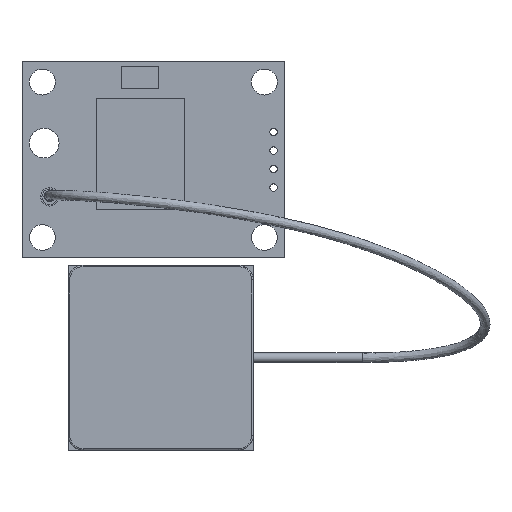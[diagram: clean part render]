
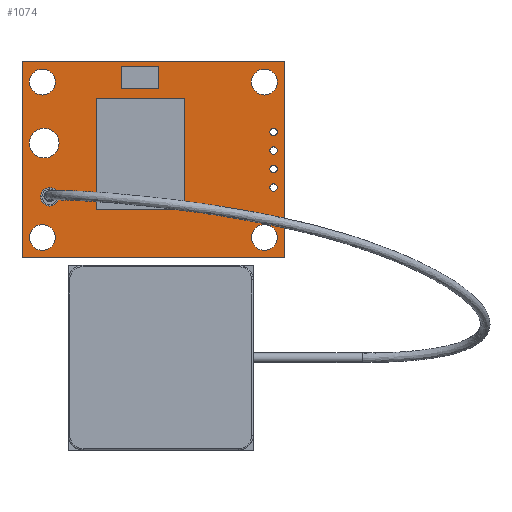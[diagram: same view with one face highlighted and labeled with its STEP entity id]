
A CAD part, top view. The second image highlights one B-rep face of the part: STEP entity #1074.
In plain terms, the highlighted planar face has unit normal (0, 0, 1).
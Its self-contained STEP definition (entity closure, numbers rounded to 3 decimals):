
#1 = CARTESIAN_POINT ( 'NONE',  ( -15., 10.5, 1.4 ) ) ;
#3 = CARTESIAN_POINT ( 'NONE',  ( -12.75, 2.25, 1.4 ) ) ;
#23 = ORIENTED_EDGE ( 'NONE', *, *, #292, .F. ) ;
#35 = EDGE_CURVE ( 'NONE', #467, #467, #2848, .T. ) ;
#39 = CARTESIAN_POINT ( 'NONE',  ( 15., -10.5, 1.4 ) ) ;
#79 = EDGE_CURVE ( 'NONE', #3327, #2706, #755, .T. ) ;
#109 = ORIENTED_EDGE ( 'NONE', *, *, #2989, .F. ) ;
#113 = CARTESIAN_POINT ( 'NONE',  ( 16.25, 1.25, 1.4 ) ) ;
#114 = CARTESIAN_POINT ( 'NONE',  ( -15., -10.5, 1.4 ) ) ;
#169 = LINE ( 'NONE', #2874, #313 ) ;
#178 = CIRCLE ( 'NONE', #2395, 2. ) ;
#217 = CARTESIAN_POINT ( 'NONE',  ( 16.25, -3.75, 1.4 ) ) ;
#220 = DIRECTION ( 'NONE',  ( -1., 0., 0. ) ) ;
#231 = CARTESIAN_POINT ( 'NONE',  ( 17.75, -13.25, 1.4 ) ) ;
#285 = CIRCLE ( 'NONE', #1275, 0.5 ) ;
#292 = EDGE_CURVE ( 'NONE', #712, #712, #933, .T. ) ;
#304 = ORIENTED_EDGE ( 'NONE', *, *, #3050, .F. ) ;
#308 = VERTEX_POINT ( 'NONE', #2447 ) ;
#313 = VECTOR ( 'NONE', #3100, 1000. ) ;
#379 = DIRECTION ( 'NONE',  ( 1., 0., 0. ) ) ;
#385 = ORIENTED_EDGE ( 'NONE', *, *, #79, .T. ) ;
#431 = FACE_BOUND ( 'NONE', #3407, .T. ) ;
#438 = EDGE_LOOP ( 'NONE', ( #3412 ) ) ;
#448 = VERTEX_POINT ( 'NONE', #1497 ) ;
#458 = AXIS2_PLACEMENT_3D ( 'NONE', #2933, #1610, #1005 ) ;
#468 = VECTOR ( 'NONE', #2723, 1000. ) ;
#467 = VERTEX_POINT ( 'NONE', #2028 ) ;
#469 = CARTESIAN_POINT ( 'NONE',  ( 0., 0., 1.4 ) ) ;
#487 = DIRECTION ( 'NONE',  ( 0., 0., -1. ) ) ;
#513 = EDGE_CURVE ( 'NONE', #448, #448, #3444, .T. ) ;
#517 = CARTESIAN_POINT ( 'NONE',  ( 15.75, -1.25, 1.4 ) ) ;
#621 = AXIS2_PLACEMENT_3D ( 'NONE', #3072, #703, #1755 ) ;
#697 = FACE_OUTER_BOUND ( 'NONE', #2320, .T. ) ;
#703 = DIRECTION ( 'NONE',  ( 0., 0., 1. ) ) ;
#712 = VERTEX_POINT ( 'NONE', #744 ) ;
#744 = CARTESIAN_POINT ( 'NONE',  ( 16.75, 10.5, 1.4 ) ) ;
#754 = EDGE_LOOP ( 'NONE', ( #1371 ) ) ;
#755 = LINE ( 'NONE', #231, #3182 ) ;
#759 = VERTEX_POINT ( 'NONE', #3333 ) ;
#903 = EDGE_CURVE ( 'NONE', #972, #972, #1440, .T. ) ;
#933 = CIRCLE ( 'NONE', #1948, 1.75 ) ;
#934 = CARTESIAN_POINT ( 'NONE',  ( -15.25, -5., 1.4 ) ) ;
#942 = CIRCLE ( 'NONE', #3346, 1.75 ) ;
#966 = EDGE_LOOP ( 'NONE', ( #2778 ) ) ;
#972 = VERTEX_POINT ( 'NONE', #3399 ) ;
#1005 = DIRECTION ( 'NONE',  ( -1., 0., 0. ) ) ;
#1006 = VERTEX_POINT ( 'NONE', #3368 ) ;
#1016 = AXIS2_PLACEMENT_3D ( 'NONE', #114, #1142, #3265 ) ;
#1051 = EDGE_LOOP ( 'NONE', ( #23 ) ) ;
#1057 = DIRECTION ( 'NONE',  ( 1., 0., 0. ) ) ;
#1074 = ADVANCED_FACE ( 'NONE', ( #2309, #1748, #3369, #2805, #2060, #2076, #3386, #431, #2568, #1479, #697 ), #2840, .F. ) ;
#1094 = DIRECTION ( 'NONE',  ( 0., 0., 1. ) ) ;
#1142 = DIRECTION ( 'NONE',  ( 0., 0., 1. ) ) ;
#1174 = DIRECTION ( 'NONE',  ( 0., 0., 1. ) ) ;
#1230 = AXIS2_PLACEMENT_3D ( 'NONE', #39, #1094, #2164 ) ;
#1274 = AXIS2_PLACEMENT_3D ( 'NONE', #113, #1174, #379 ) ;
#1275 = AXIS2_PLACEMENT_3D ( 'NONE', #217, #2322, #3332 ) ;
#1295 = CARTESIAN_POINT ( 'NONE',  ( -14., -5., 1.4 ) ) ;
#1342 = EDGE_CURVE ( 'NONE', #308, #3327, #1492, .T. ) ;
#1371 = ORIENTED_EDGE ( 'NONE', *, *, #2964, .F. ) ;
#1379 = DIRECTION ( 'NONE',  ( 0., 0., 1. ) ) ;
#1399 = ORIENTED_EDGE ( 'NONE', *, *, #903, .F. ) ;
#1412 = CARTESIAN_POINT ( 'NONE',  ( 17.75, 13.25, 1.4 ) ) ;
#1440 = CIRCLE ( 'NONE', #1274, 0.5 ) ;
#1479 = FACE_BOUND ( 'NONE', #754, .T. ) ;
#1492 = LINE ( 'NONE', #3043, #2276 ) ;
#1497 = CARTESIAN_POINT ( 'NONE',  ( 16.75, 3.75, 1.4 ) ) ;
#1505 = AXIS2_PLACEMENT_3D ( 'NONE', #1295, #2365, #1853 ) ;
#1578 = EDGE_CURVE ( 'NONE', #2024, #308, #1658, .T. ) ;
#1610 = DIRECTION ( 'NONE',  ( 0., 0., 1. ) ) ;
#1658 = LINE ( 'NONE', #1412, #468 ) ;
#1666 = CIRCLE ( 'NONE', #1505, 1.25 ) ;
#1747 = VERTEX_POINT ( 'NONE', #934 ) ;
#1748 = FACE_BOUND ( 'NONE', #966, .T. ) ;
#1755 = DIRECTION ( 'NONE',  ( 1., 0., 0. ) ) ;
#1811 = CIRCLE ( 'NONE', #1016, 1.75 ) ;
#1846 = CIRCLE ( 'NONE', #458, 0.5 ) ;
#1849 = ORIENTED_EDGE ( 'NONE', *, *, #3071, .F. ) ;
#1853 = DIRECTION ( 'NONE',  ( -1., 0., 0. ) ) ;
#1914 = EDGE_CURVE ( 'NONE', #1006, #1006, #1811, .T. ) ;
#1935 = DIRECTION ( 'NONE',  ( 1., 0., 0. ) ) ;
#1948 = AXIS2_PLACEMENT_3D ( 'NONE', #2194, #1379, #1935 ) ;
#2003 = EDGE_LOOP ( 'NONE', ( #304 ) ) ;
#2006 = ORIENTED_EDGE ( 'NONE', *, *, #35, .F. ) ;
#2024 = VERTEX_POINT ( 'NONE', #3282 ) ;
#2028 = CARTESIAN_POINT ( 'NONE',  ( 16.75, -10.5, 1.4 ) ) ;
#2060 = FACE_BOUND ( 'NONE', #2711, .T. ) ;
#2074 = CARTESIAN_POINT ( 'NONE',  ( -14.75, 2.25, 1.4 ) ) ;
#2075 = VERTEX_POINT ( 'NONE', #3140 ) ;
#2076 = FACE_BOUND ( 'NONE', #2190, .T. ) ;
#2155 = AXIS2_PLACEMENT_3D ( 'NONE', #469, #487, #220 ) ;
#2164 = DIRECTION ( 'NONE',  ( 1., 0., 0. ) ) ;
#2190 = EDGE_LOOP ( 'NONE', ( #1849 ) ) ;
#2194 = CARTESIAN_POINT ( 'NONE',  ( 15., 10.5, 1.4 ) ) ;
#2223 = EDGE_LOOP ( 'NONE', ( #109 ) ) ;
#2276 = VECTOR ( 'NONE', #2801, 1000. ) ;
#2309 = FACE_BOUND ( 'NONE', #2223, .T. ) ;
#2320 = EDGE_LOOP ( 'NONE', ( #2443, #385, #2524, #2363 ) ) ;
#2322 = DIRECTION ( 'NONE',  ( 0., 0., 1. ) ) ;
#2363 = ORIENTED_EDGE ( 'NONE', *, *, #1578, .T. ) ;
#2365 = DIRECTION ( 'NONE',  ( 0., 0., 1. ) ) ;
#2395 = AXIS2_PLACEMENT_3D ( 'NONE', #2074, #3139, #3273 ) ;
#2443 = ORIENTED_EDGE ( 'NONE', *, *, #1342, .T. ) ;
#2447 = CARTESIAN_POINT ( 'NONE',  ( -17.75, 13.25, 1.4 ) ) ;
#2524 = ORIENTED_EDGE ( 'NONE', *, *, #3400, .T. ) ;
#2547 = VERTEX_POINT ( 'NONE', #517 ) ;
#2568 = FACE_BOUND ( 'NONE', #1051, .T. ) ;
#2581 = DIRECTION ( 'NONE',  ( 1., 0., 0. ) ) ;
#2658 = DIRECTION ( 'NONE',  ( 0., 0., 1. ) ) ;
#2706 = VERTEX_POINT ( 'NONE', #3376 ) ;
#2711 = EDGE_LOOP ( 'NONE', ( #1399 ) ) ;
#2723 = DIRECTION ( 'NONE',  ( -1., 0., 0. ) ) ;
#2778 = ORIENTED_EDGE ( 'NONE', *, *, #513, .F. ) ;
#2801 = DIRECTION ( 'NONE',  ( 0., -1., 0. ) ) ;
#2805 = FACE_BOUND ( 'NONE', #438, .T. ) ;
#2813 = EDGE_LOOP ( 'NONE', ( #3067 ) ) ;
#2840 = PLANE ( 'NONE',  #2155 ) ;
#2848 = CIRCLE ( 'NONE', #1230, 1.75 ) ;
#2874 = CARTESIAN_POINT ( 'NONE',  ( 17.75, 13.25, 1.4 ) ) ;
#2883 = EDGE_CURVE ( 'NONE', #2075, #2075, #285, .T. ) ;
#2933 = CARTESIAN_POINT ( 'NONE',  ( 16.25, -1.25, 1.4 ) ) ;
#2964 = EDGE_CURVE ( 'NONE', #759, #759, #942, .T. ) ;
#2989 = EDGE_CURVE ( 'NONE', #1747, #1747, #1666, .T. ) ;
#3043 = CARTESIAN_POINT ( 'NONE',  ( -17.75, 13.25, 1.4 ) ) ;
#3050 = EDGE_CURVE ( 'NONE', #2547, #2547, #1846, .T. ) ;
#3067 = ORIENTED_EDGE ( 'NONE', *, *, #1914, .F. ) ;
#3071 = EDGE_CURVE ( 'NONE', #3417, #3417, #178, .T. ) ;
#3072 = CARTESIAN_POINT ( 'NONE',  ( 16.25, 3.75, 1.4 ) ) ;
#3100 = DIRECTION ( 'NONE',  ( 0., 1., 0. ) ) ;
#3139 = DIRECTION ( 'NONE',  ( 0., 0., 1. ) ) ;
#3140 = CARTESIAN_POINT ( 'NONE',  ( 15.75, -3.75, 1.4 ) ) ;
#3182 = VECTOR ( 'NONE', #2581, 1000. ) ;
#3223 = CARTESIAN_POINT ( 'NONE',  ( -17.75, -13.25, 1.4 ) ) ;
#3265 = DIRECTION ( 'NONE',  ( 1., 0., 0. ) ) ;
#3273 = DIRECTION ( 'NONE',  ( 1., 0., 0. ) ) ;
#3282 = CARTESIAN_POINT ( 'NONE',  ( 17.75, 13.25, 1.4 ) ) ;
#3327 = VERTEX_POINT ( 'NONE', #3223 ) ;
#3332 = DIRECTION ( 'NONE',  ( -1., 0., 0. ) ) ;
#3333 = CARTESIAN_POINT ( 'NONE',  ( -13.25, 10.5, 1.4 ) ) ;
#3346 = AXIS2_PLACEMENT_3D ( 'NONE', #1, #2658, #1057 ) ;
#3368 = CARTESIAN_POINT ( 'NONE',  ( -13.25, -10.5, 1.4 ) ) ;
#3369 = FACE_BOUND ( 'NONE', #2003, .T. ) ;
#3376 = CARTESIAN_POINT ( 'NONE',  ( 17.75, -13.25, 1.4 ) ) ;
#3386 = FACE_BOUND ( 'NONE', #2813, .T. ) ;
#3399 = CARTESIAN_POINT ( 'NONE',  ( 16.75, 1.25, 1.4 ) ) ;
#3400 = EDGE_CURVE ( 'NONE', #2706, #2024, #169, .T. ) ;
#3407 = EDGE_LOOP ( 'NONE', ( #2006 ) ) ;
#3412 = ORIENTED_EDGE ( 'NONE', *, *, #2883, .F. ) ;
#3417 = VERTEX_POINT ( 'NONE', #3 ) ;
#3444 = CIRCLE ( 'NONE', #621, 0.5 ) ;
